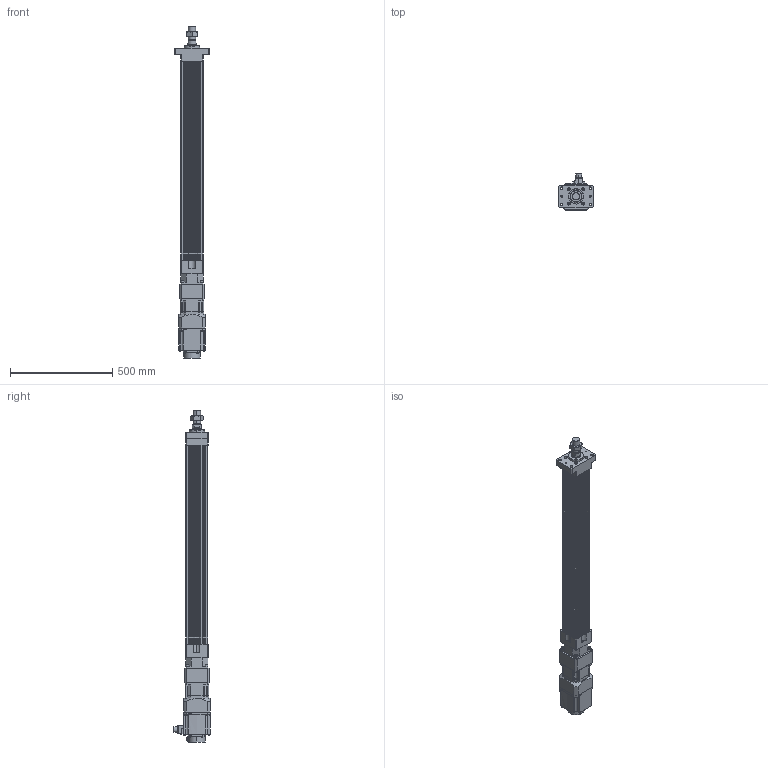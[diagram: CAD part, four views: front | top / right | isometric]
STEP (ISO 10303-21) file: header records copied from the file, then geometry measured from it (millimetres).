
FILE_DESCRIPTION (( 'STEP AP203' ), '1' );
FILE_NAME ('HES110NS(HS)-S800-W015G00-M-FM.STEP', '2023-01-28T06:57:53', ( 'tms' ), ( '' ), 'SwSTEP 2.0', 'SolidWorks 2013', '' );
FILE_SCHEMA (( 'CONFIG_CONTROL_DESIGN' ));
Length unit declared in the file: millimetre
Products named in the file (8): AB1151; P0401400706; HES110NS(HS)-S800-W015G00-M-FM; M36X1.5P; HES110 ROD M ST800; HG-SR152; AB115-003[HG-SR152]; HES110-S800-G120-FM
Assembly tree (7 placements, depth 3):
  HES110NS(HS)-S800-W015G00-M-FM
    HES110-S800-G120-FM
    HES110 ROD M ST800
    M36X1.5P
    AB115-003[HG-SR152]
      AB1151
      P0401400706
    HG-SR152
Bounding box: 170 x 177.49 x 1621.5 mm (x, y, z)
Volume: 10436422.9 mm3; surface area: 1499831.7 mm2
Topology: 4 solids, 15 shells, 1170 faces, 2958 edges, 1925 vertices
Faces by surface type: plane 559, cylinder 525, cone 74, bspline 8, torus 4
Entity records: 36974 total; most frequent: CARTESIAN_POINT 7028, DIRECTION 6389, ORIENTED_EDGE 5864, EDGE_CURVE 2942, AXIS2_PLACEMENT_3D 2346, VERTEX_POINT 1925, VECTOR 1697, LINE 1697
